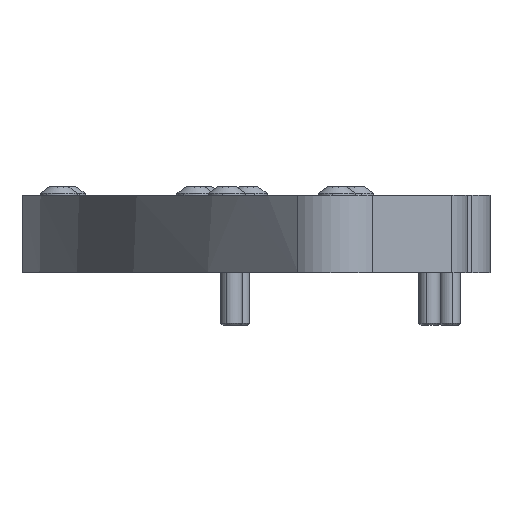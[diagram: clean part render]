
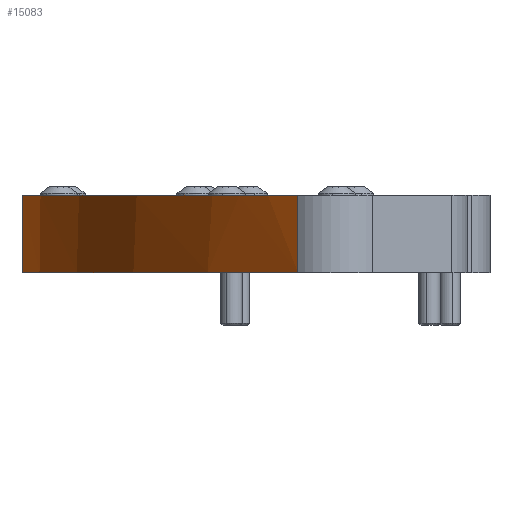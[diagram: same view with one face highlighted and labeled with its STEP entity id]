
A CAD part, left-side view. The second image highlights one B-rep face of the part: STEP entity #15083.
In plain terms, the highlighted cylindrical face has radius 169.332 mm (diameter 338.664 mm), a partial arc.
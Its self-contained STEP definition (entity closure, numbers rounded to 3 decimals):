
#49 = ORIENTED_EDGE ( 'NONE', *, *, #17886, .F. ) ;
#230 = AXIS2_PLACEMENT_3D ( 'NONE', #8681, #4170, #10128 ) ;
#398 = DIRECTION ( 'NONE',  ( 1., 0., 0. ) ) ;
#744 = DIRECTION ( 'NONE',  ( 1., 0., 0. ) ) ;
#1424 = CARTESIAN_POINT ( 'NONE',  ( 41.69, 35.342, 12. ) ) ;
#1437 = EDGE_CURVE ( 'NONE', #15784, #15152, #11163, .T. ) ;
#1438 = ORIENTED_EDGE ( 'NONE', *, *, #8709, .F. ) ;
#1907 = CARTESIAN_POINT ( 'NONE',  ( -122.271, -11.539, -149.826 ) ) ;
#1950 = EDGE_CURVE ( 'NONE', #17676, #2813, #9495, .T. ) ;
#1951 = AXIS2_PLACEMENT_3D ( 'NONE', #2431, #16645, #12305 ) ;
#2040 = CARTESIAN_POINT ( 'NONE',  ( -104.452, 4.575, 12. ) ) ;
#2057 = VERTEX_POINT ( 'NONE', #9627 ) ;
#2108 = VECTOR ( 'NONE', #7591, 1000. ) ;
#2431 = CARTESIAN_POINT ( 'NONE',  ( -0.072, -128.76, 12. ) ) ;
#2813 = VERTEX_POINT ( 'NONE', #13246 ) ;
#3370 = DIRECTION ( 'NONE',  ( 0., 0., 1. ) ) ;
#3454 = LINE ( 'NONE', #1907, #2108 ) ;
#3647 = DIRECTION ( 'NONE',  ( 0., 0., 1. ) ) ;
#3796 = AXIS2_PLACEMENT_3D ( 'NONE', #13962, #6734, #11148 ) ;
#4170 = DIRECTION ( 'NONE',  ( 0., 0., 1. ) ) ;
#4860 = CARTESIAN_POINT ( 'NONE',  ( -0.072, -128.76, 12. ) ) ;
#4991 = CARTESIAN_POINT ( 'NONE',  ( -0.072, -128.76, 12. ) ) ;
#4997 = CARTESIAN_POINT ( 'NONE',  ( -0.072, -128.76, 12. ) ) ;
#5665 = ORIENTED_EDGE ( 'NONE', *, *, #6732, .T. ) ;
#5977 = CYLINDRICAL_SURFACE ( 'NONE', #16410, 169.332 ) ;
#6732 = EDGE_CURVE ( 'NONE', #2057, #15152, #3454, .T. ) ;
#6734 = DIRECTION ( 'NONE',  ( 0., 0., -1. ) ) ;
#6865 = CIRCLE ( 'NONE', #3796, 169.332 ) ;
#7591 = DIRECTION ( 'NONE',  ( 0., 0., 1. ) ) ;
#7721 = CARTESIAN_POINT ( 'NONE',  ( 126.934, -16.764, -149.826 ) ) ;
#7736 = DIRECTION ( 'NONE',  ( 1., 0., 0. ) ) ;
#7795 = AXIS2_PLACEMENT_3D ( 'NONE', #4860, #13583, #7736 ) ;
#7868 = EDGE_CURVE ( 'NONE', #17676, #8317, #8785, .T. ) ;
#8064 = DIRECTION ( 'NONE',  ( 0., 0., 1. ) ) ;
#8216 = VERTEX_POINT ( 'NONE', #16666 ) ;
#8227 = CIRCLE ( 'NONE', #230, 169.332 ) ;
#8317 = VERTEX_POINT ( 'NONE', #9788 ) ;
#8408 = CARTESIAN_POINT ( 'NONE',  ( 126.934, -16.764, 12. ) ) ;
#8681 = CARTESIAN_POINT ( 'NONE',  ( -0.072, -128.76, 12. ) ) ;
#8709 = EDGE_CURVE ( 'NONE', #10610, #8216, #14392, .T. ) ;
#8785 = CIRCLE ( 'NONE', #1951, 169.332 ) ;
#9056 = EDGE_CURVE ( 'NONE', #2057, #2813, #6865, .T. ) ;
#9495 = LINE ( 'NONE', #7721, #13822 ) ;
#9627 = CARTESIAN_POINT ( 'NONE',  ( -122.271, -11.539, -2.5 ) ) ;
#9788 = CARTESIAN_POINT ( 'NONE',  ( 109.4, 0.427, 12. ) ) ;
#10128 = DIRECTION ( 'NONE',  ( 1., 0., 0. ) ) ;
#10138 = AXIS2_PLACEMENT_3D ( 'NONE', #4991, #3647, #15190 ) ;
#10224 = ORIENTED_EDGE ( 'NONE', *, *, #9056, .F. ) ;
#10610 = VERTEX_POINT ( 'NONE', #1424 ) ;
#10621 = DIRECTION ( 'NONE',  ( 0., 0., -1. ) ) ;
#11148 = DIRECTION ( 'NONE',  ( 1., 0., 0. ) ) ;
#11163 = CIRCLE ( 'NONE', #10138, 169.332 ) ;
#11600 = EDGE_LOOP ( 'NONE', ( #12852, #13257, #10224, #5665, #14876, #15970, #1438, #49 ) ) ;
#11849 = AXIS2_PLACEMENT_3D ( 'NONE', #4997, #8064, #744 ) ;
#12305 = DIRECTION ( 'NONE',  ( 1., 0., 0. ) ) ;
#12852 = ORIENTED_EDGE ( 'NONE', *, *, #7868, .F. ) ;
#13246 = CARTESIAN_POINT ( 'NONE',  ( 126.934, -16.764, -2.5 ) ) ;
#13257 = ORIENTED_EDGE ( 'NONE', *, *, #1950, .T. ) ;
#13583 = DIRECTION ( 'NONE',  ( 0., 0., 1. ) ) ;
#13730 = CIRCLE ( 'NONE', #11849, 169.332 ) ;
#13822 = VECTOR ( 'NONE', #10621, 1000. ) ;
#13962 = CARTESIAN_POINT ( 'NONE',  ( -0.072, -128.76, -2.5 ) ) ;
#14392 = CIRCLE ( 'NONE', #7795, 169.332 ) ;
#14876 = ORIENTED_EDGE ( 'NONE', *, *, #1437, .F. ) ;
#15048 = EDGE_CURVE ( 'NONE', #8216, #15784, #8227, .T. ) ;
#15053 = FACE_OUTER_BOUND ( 'NONE', #11600, .T. ) ;
#15083 = ADVANCED_FACE ( 'NONE', ( #15053 ), #5977, .T. ) ;
#15152 = VERTEX_POINT ( 'NONE', #16335 ) ;
#15190 = DIRECTION ( 'NONE',  ( 1., 0., 0. ) ) ;
#15784 = VERTEX_POINT ( 'NONE', #2040 ) ;
#15970 = ORIENTED_EDGE ( 'NONE', *, *, #15048, .F. ) ;
#16335 = CARTESIAN_POINT ( 'NONE',  ( -122.271, -11.539, 12. ) ) ;
#16410 = AXIS2_PLACEMENT_3D ( 'NONE', #16460, #3370, #398 ) ;
#16460 = CARTESIAN_POINT ( 'NONE',  ( -0.072, -128.76, -149.826 ) ) ;
#16645 = DIRECTION ( 'NONE',  ( 0., 0., 1. ) ) ;
#16666 = CARTESIAN_POINT ( 'NONE',  ( -35.438, 36.838, 12. ) ) ;
#17676 = VERTEX_POINT ( 'NONE', #8408 ) ;
#17886 = EDGE_CURVE ( 'NONE', #8317, #10610, #13730, .T. ) ;
